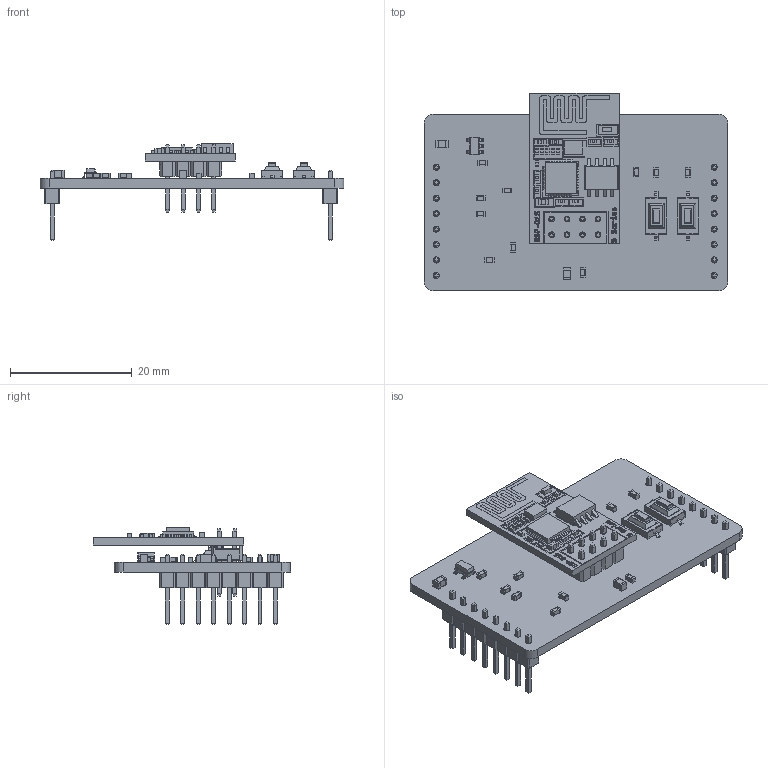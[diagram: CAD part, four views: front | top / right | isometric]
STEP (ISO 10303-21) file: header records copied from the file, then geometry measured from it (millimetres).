
FILE_DESCRIPTION(('KiCad electronic assembly'),'2;1');
FILE_NAME('______ ___________ _ ESP01.step','2026-03-19T12:34:40',( 'Pcbnew'),('Kicad'),'Open CASCADE STEP processor 7.8', 'KiCad to STEP converter','Unknown');
FILE_SCHEMA(('AUTOMOTIVE_DESIGN { 1 0 10303 214 1 1 1 1 }'));
Length unit declared in the file: millimetre
Products named in the file (14): ______ ___________ _ ESP01 1; C_0603_1608Metric; ESP-01S (ESP8266) Board Module; ESP-01S (ESP8266) Board Module v5; C_0805_2012Metric; SOT-23-5; SOT_23_5; SW_SPST_CK_RS282G05A3; PinHeader_1x08_P2.54mm_Vertical; PinHeader_1x08_P254mm_Vertical; Ð¼Ð¾Ð´ÑÐ»Ñ Ð¿ÐµÑÐµÑÐ¾Ð´Ð½Ð¸ÐºÐ° 
Ñ ESP01_PCB
Assembly tree (25 placements, depth 3):
  ______ ___________ _ ESP01 1
    C_0603_1608Metric  x10
      C_0603_1608Metric
    ESP-01S (ESP8266) Board Module
      ESP-01S (ESP8266) Board Module v5
    C_0805_2012Metric  x2
      C_0805_2012Metric
    SOT-23-5
      SOT_23_5
    SW_SPST_CK_RS282G05A3  x2
      SW_SPST_CK_RS282G05A3
    PinHeader_1x08_P2.54mm_Vertical  x2
      PinHeader_1x08_P254mm_Vertical
    Ð¼Ð¾Ð´ÑÐ»Ñ Ð¿ÐµÑÐµÑÐ¾Ð´Ð½Ð¸ÐºÐ° 
Ñ ESP01_PCB
Bounding box: 50 x 32.44 x 15.89 mm (x, y, z)
Volume: 3322.3 mm3; surface area: 6003.1 mm2
Topology: 122 solids, 122 shells, 1982 faces, 5129 edges, 3509 vertices
Faces by surface type: plane 1723, cylinder 230, bspline 29
Full cylindrical faces by diameter (mm): 0.92 x8, 1 x24
Entity records: 46998 total; most frequent: CARTESIAN_POINT 9182, ORIENTED_EDGE 7318, DIRECTION 6258, EDGE_CURVE 3659, LINE 3070, VECTOR 3070, VERTEX_POINT 2553, AXIS2_PLACEMENT_3D 1594
